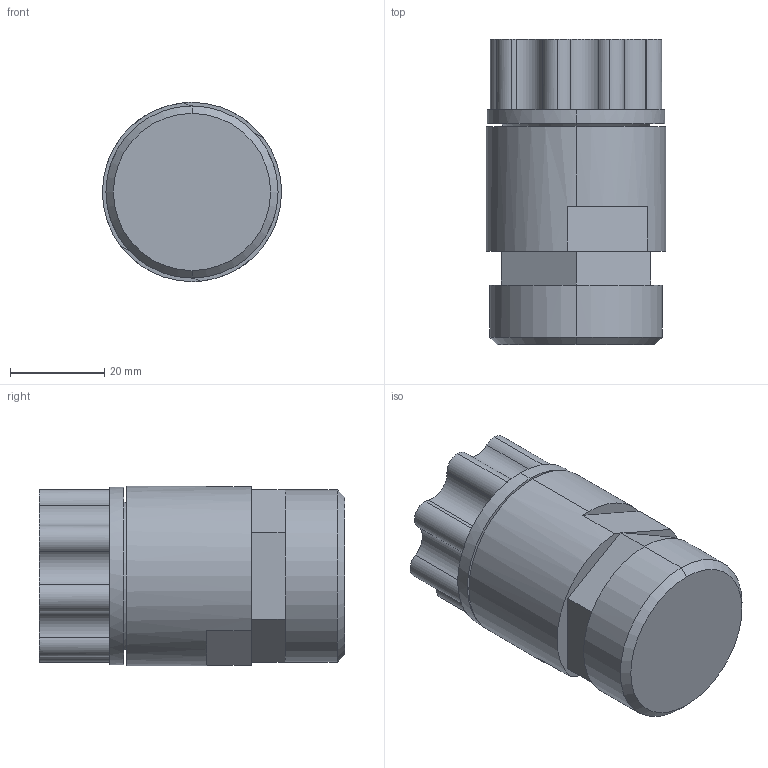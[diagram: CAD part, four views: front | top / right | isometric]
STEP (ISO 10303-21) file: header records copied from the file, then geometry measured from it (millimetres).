
FILE_DESCRIPTION (( 'STEP AP214' ), '1' );
FILE_NAME ('12-synchro-flare-with-top-mount-adapter.STEP', '2012-11-27T23:20:07', ( '' ), ( '' ), 'SwSTEP 2.0', 'SolidWorks 2012', '' );
FILE_SCHEMA (( 'AUTOMOTIVE_DESIGN' ));
Length unit declared in the file: inch
Products named in the file (1): 12-synchro-flare-with-top-mount-adapter
Bounding box: 38.1 x 64.9 x 38.1 mm (x, y, z)
Volume: 64645.8 mm3; surface area: 11313.8 mm2
Topology: 1 solids, 1 shells, 74 faces, 181 edges, 112 vertices
Faces by surface type: plane 39, cylinder 31, cone 4
Entity records: 2276 total; most frequent: DIRECTION 431, CARTESIAN_POINT 368, ORIENTED_EDGE 362, EDGE_CURVE 181, AXIS2_PLACEMENT_3D 175, VERTEX_POINT 112, CIRCLE 100, VECTOR 81
